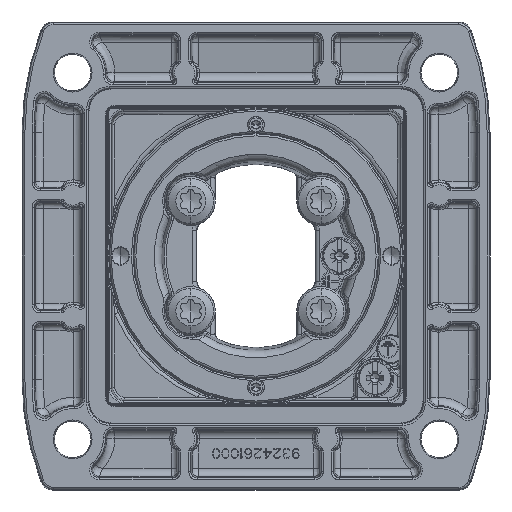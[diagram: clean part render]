
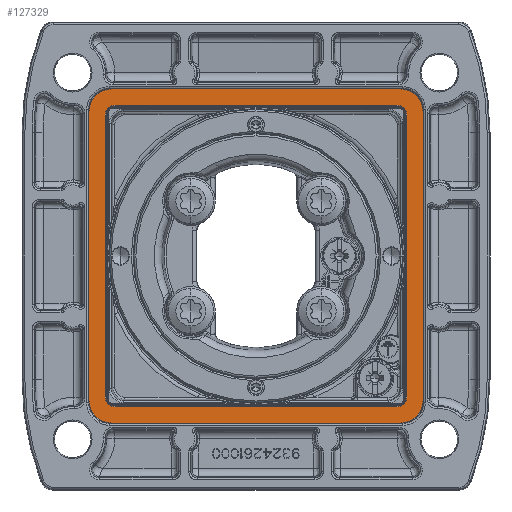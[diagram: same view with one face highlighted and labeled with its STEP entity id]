
A CAD part, front view. The second image highlights one B-rep face of the part: STEP entity #127329.
In plain terms, the highlighted planar face has unit normal (0, -1, 0) as drawn and (0, 1, 0) by its records, which use the part's own axes.
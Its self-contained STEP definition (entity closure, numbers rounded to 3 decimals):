
#126836=CARTESIAN_POINT('',(-34.5,4.,-34.5));
#126837=DIRECTION('',(0.,-1.,0.));
#126838=DIRECTION('',(-1.,0.,0.));
#126839=AXIS2_PLACEMENT_3D('',#126836,#126837,#126838);
#126866=CARTESIAN_POINT('',(-34.5,4.,34.5));
#126867=DIRECTION('',(0.,-1.,0.));
#126868=DIRECTION('',(0.,0.,1.));
#126869=AXIS2_PLACEMENT_3D('',#126866,#126867,#126868);
#126896=CARTESIAN_POINT('',(34.5,4.,34.5));
#126897=DIRECTION('',(0.,-1.,0.));
#126898=DIRECTION('',(1.,0.,0.));
#126899=AXIS2_PLACEMENT_3D('',#126896,#126897,#126898);
#126926=CARTESIAN_POINT('',(34.5,4.,-34.5));
#126927=DIRECTION('',(0.,-1.,0.));
#126928=DIRECTION('',(0.,0.,-1.));
#126929=AXIS2_PLACEMENT_3D('',#126926,#126927,#126928);
#126934=DIRECTION('',(0.,0.,1.));
#126935=VECTOR('',#126934,69.);
#126936=CARTESIAN_POINT('',(37.,4.,-34.5));
#126937=LINE('',#126936,#126935);
#126941=DIRECTION('',(1.,0.,0.));
#126942=VECTOR('',#126941,69.);
#126943=CARTESIAN_POINT('',(-34.5,4.,-37.));
#126944=LINE('',#126943,#126942);
#126948=DIRECTION('',(0.,0.,-1.));
#126949=VECTOR('',#126948,69.);
#126950=CARTESIAN_POINT('',(-37.,4.,34.5));
#126951=LINE('',#126950,#126949);
#126955=DIRECTION('',(-1.,0.,0.));
#126956=VECTOR('',#126955,69.);
#126957=CARTESIAN_POINT('',(34.5,4.,37.));
#126958=LINE('',#126957,#126956);
#126962=CARTESIAN_POINT('',(-35.5,4.,-35.5));
#126963=DIRECTION('',(0.,1.,0.));
#126964=DIRECTION('',(0.,0.,-1.));
#126965=AXIS2_PLACEMENT_3D('',#126962,#126963,#126964);
#126970=DIRECTION('',(-1.,0.,0.));
#126971=VECTOR('',#126970,71.);
#126972=CARTESIAN_POINT('',(35.5,4.,-41.));
#126973=LINE('',#126972,#126971);
#126977=CARTESIAN_POINT('',(35.5,4.,-35.5));
#126978=DIRECTION('',(0.,1.,0.));
#126979=DIRECTION('',(1.,0.,0.));
#126980=AXIS2_PLACEMENT_3D('',#126977,#126978,#126979);
#126985=DIRECTION('',(0.,0.,-1.));
#126986=VECTOR('',#126985,71.);
#126987=CARTESIAN_POINT('',(41.,4.,35.5));
#126988=LINE('',#126987,#126986);
#126992=CARTESIAN_POINT('',(35.5,4.,35.5));
#126993=DIRECTION('',(0.,1.,0.));
#126994=DIRECTION('',(0.,0.,1.));
#126995=AXIS2_PLACEMENT_3D('',#126992,#126993,#126994);
#127000=DIRECTION('',(1.,0.,0.));
#127001=VECTOR('',#127000,71.);
#127002=CARTESIAN_POINT('',(-35.5,4.,41.));
#127003=LINE('',#127002,#127001);
#127007=CARTESIAN_POINT('',(-35.5,4.,35.5));
#127008=DIRECTION('',(0.,1.,0.));
#127009=DIRECTION('',(-1.,0.,0.));
#127010=AXIS2_PLACEMENT_3D('',#127007,#127008,#127009);
#127015=DIRECTION('',(0.,0.,1.));
#127016=VECTOR('',#127015,71.);
#127017=CARTESIAN_POINT('',(-41.,4.,-35.5));
#127018=LINE('',#127017,#127016);
#127082=CARTESIAN_POINT('',(-35.5,4.,-41.));
#127083=VERTEX_POINT('',#127082);
#127084=CARTESIAN_POINT('',(-41.,4.,-35.5));
#127085=VERTEX_POINT('',#127084);
#127090=CARTESIAN_POINT('',(-41.,4.,35.5));
#127091=VERTEX_POINT('',#127090);
#127092=CARTESIAN_POINT('',(-35.5,4.,41.));
#127093=VERTEX_POINT('',#127092);
#127098=CARTESIAN_POINT('',(35.5,4.,41.));
#127099=VERTEX_POINT('',#127098);
#127100=CARTESIAN_POINT('',(41.,4.,35.5));
#127101=VERTEX_POINT('',#127100);
#127106=CARTESIAN_POINT('',(41.,4.,-35.5));
#127107=VERTEX_POINT('',#127106);
#127108=CARTESIAN_POINT('',(35.5,4.,-41.));
#127109=VERTEX_POINT('',#127108);
#127111=CARTESIAN_POINT('',(-34.5,4.,-37.));
#127113=VERTEX_POINT('',#127111);
#127115=CARTESIAN_POINT('',(-37.,4.,-34.5));
#127117=VERTEX_POINT('',#127115);
#127119=CARTESIAN_POINT('',(37.,4.,-34.5));
#127121=VERTEX_POINT('',#127119);
#127123=CARTESIAN_POINT('',(34.5,4.,-37.));
#127125=VERTEX_POINT('',#127123);
#127127=CARTESIAN_POINT('',(34.5,4.,37.));
#127129=VERTEX_POINT('',#127127);
#127131=CARTESIAN_POINT('',(37.,4.,34.5));
#127133=VERTEX_POINT('',#127131);
#127135=CARTESIAN_POINT('',(-37.,4.,34.5));
#127137=VERTEX_POINT('',#127135);
#127139=CARTESIAN_POINT('',(-34.5,4.,37.));
#127141=VERTEX_POINT('',#127139);
#127296=CARTESIAN_POINT('',(0.,4.,0.));
#127297=DIRECTION('',(0.,1.,0.));
#127298=DIRECTION('',(1.,0.,0.));
#127299=AXIS2_PLACEMENT_3D('',#127296,#127297,#127298);
#127300=PLANE('',#127299);
#127302=ORIENTED_EDGE('',*,*,#127301,.F.);
#127304=ORIENTED_EDGE('',*,*,#127303,.F.);
#127306=ORIENTED_EDGE('',*,*,#127305,.F.);
#127308=ORIENTED_EDGE('',*,*,#127307,.F.);
#127310=ORIENTED_EDGE('',*,*,#127309,.F.);
#127312=ORIENTED_EDGE('',*,*,#127311,.F.);
#127314=ORIENTED_EDGE('',*,*,#127313,.F.);
#127316=ORIENTED_EDGE('',*,*,#127315,.F.);
#127317=EDGE_LOOP('',(#127302,#127304,#127306,#127308,#127310,#127312,#127314,
#127316));
#127318=FACE_OUTER_BOUND('',#127317,.F.);
#127319=ORIENTED_EDGE('',*,*,#127276,.F.);
#127320=ORIENTED_EDGE('',*,*,#127291,.F.);
#127321=ORIENTED_EDGE('',*,*,#127191,.F.);
#127322=ORIENTED_EDGE('',*,*,#127208,.F.);
#127323=ORIENTED_EDGE('',*,*,#127222,.F.);
#127324=ORIENTED_EDGE('',*,*,#127236,.F.);
#127325=ORIENTED_EDGE('',*,*,#127248,.F.);
#127326=ORIENTED_EDGE('',*,*,#127264,.F.);
#127327=EDGE_LOOP('',(#127319,#127320,#127321,#127322,#127323,#127324,#127325,
#127326));
#127328=FACE_BOUND('',#127327,.F.);
#126840=CIRCLE('',#126839,2.5);
#126870=CIRCLE('',#126869,2.5);
#126900=CIRCLE('',#126899,2.5);
#126930=CIRCLE('',#126929,2.5);
#126966=CIRCLE('',#126965,5.5);
#126981=CIRCLE('',#126980,5.5);
#126996=CIRCLE('',#126995,5.5);
#127011=CIRCLE('',#127010,5.5);
#127191=EDGE_CURVE('',#127113,#127125,#126944,.T.);
#127208=EDGE_CURVE('',#127117,#127113,#126840,.T.);
#127222=EDGE_CURVE('',#127137,#127117,#126951,.T.);
#127236=EDGE_CURVE('',#127141,#127137,#126870,.T.);
#127248=EDGE_CURVE('',#127129,#127141,#126958,.T.);
#127264=EDGE_CURVE('',#127133,#127129,#126900,.T.);
#127276=EDGE_CURVE('',#127121,#127133,#126937,.T.);
#127291=EDGE_CURVE('',#127125,#127121,#126930,.T.);
#127301=EDGE_CURVE('',#127083,#127085,#126966,.T.);
#127303=EDGE_CURVE('',#127109,#127083,#126973,.T.);
#127305=EDGE_CURVE('',#127107,#127109,#126981,.T.);
#127307=EDGE_CURVE('',#127101,#127107,#126988,.T.);
#127309=EDGE_CURVE('',#127099,#127101,#126996,.T.);
#127311=EDGE_CURVE('',#127093,#127099,#127003,.T.);
#127313=EDGE_CURVE('',#127091,#127093,#127011,.T.);
#127315=EDGE_CURVE('',#127085,#127091,#127018,.T.);
#127329=ADVANCED_FACE('',(#127318,#127328),#127300,.T.);
